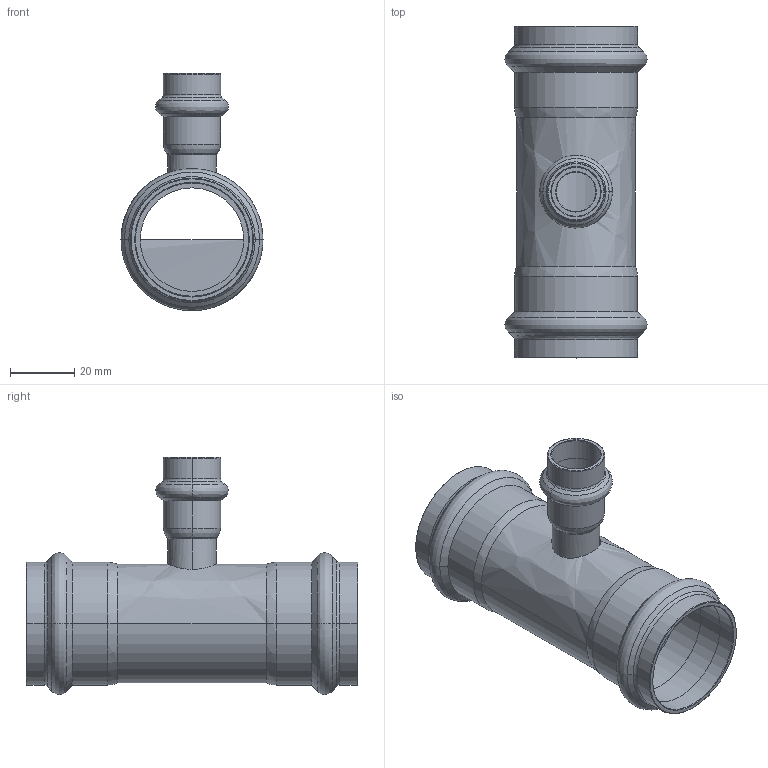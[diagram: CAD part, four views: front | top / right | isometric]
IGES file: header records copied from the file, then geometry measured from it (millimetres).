
Start section: Elysium IGES Interface
Global section: file name: C:\Users\Wallenburg\Desktop\3d modellen sudo\S-Pr VP\SP6130RV\6130RVW351535.igs; native system: CoCreate Modeling 17.00A  17-Jun-2010; preprocessor: CoCreate IGES_3D V2.2; author: Unknown; organization: Unknown; date: 20130117.135111; units: millimetre
Bounding box: 44.3 x 103.51 x 74 mm (x, y, z)
Volume: 24821.4 mm3; surface area: 28768.5 mm2
Topology: 1 solids, 1 shells, 124 faces, 264 edges, 142 vertices
Faces by surface type: bspline 124
